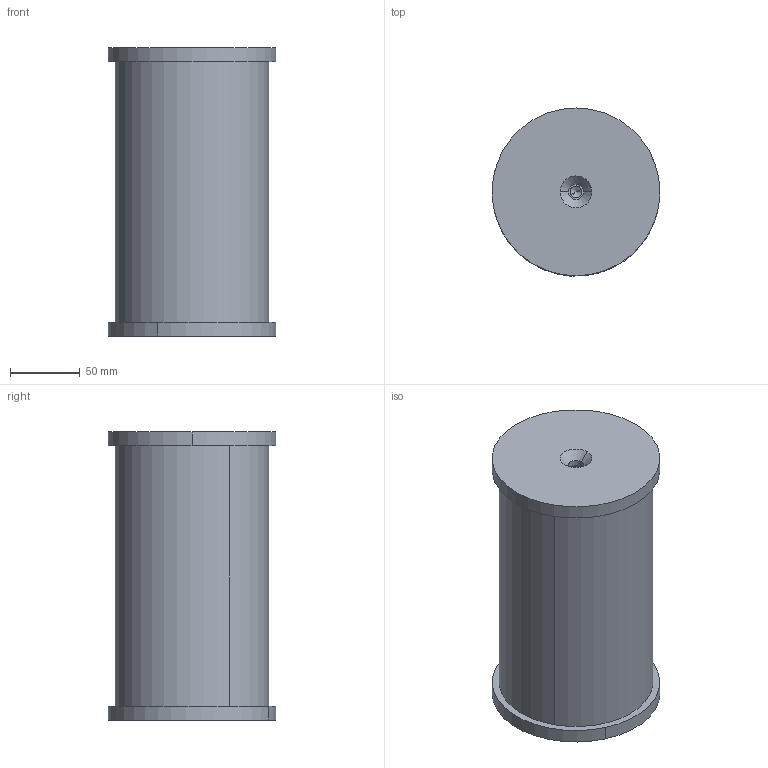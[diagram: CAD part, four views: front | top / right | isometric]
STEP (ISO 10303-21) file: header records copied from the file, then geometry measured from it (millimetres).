
FILE_DESCRIPTION (( 'STEP AP203' ), '1' );
FILE_NAME ('Bolzen Scheibe A M100.STEP', '2018-02-20T07:41:48', ( 'install' ), ( 'Hewlett-Packard Company' ), 'SwSTEP 2.0', 'SolidWorks 2017', '' );
FILE_SCHEMA (( 'CONFIG_CONTROL_DESIGN' ));
Length unit declared in the file: millimetre
Products named in the file (3): Scheibe_M100; Bolzen ScheibeVarA_generisch_M100; Bolzen Scheibe A M100
Assembly tree (3 placements, depth 2):
  Bolzen Scheibe A M100
    Scheibe_M100  x2
    Bolzen ScheibeVarA_generisch_M100
Bounding box: 120 x 120 x 206 mm (x, y, z)
Volume: 1987341.3 mm3; surface area: 137595.7 mm2
Topology: 3 solids, 3 shells, 28 faces, 58 edges, 34 vertices
Faces by surface type: cylinder 14, cone 8, plane 6
Entity records: 853 total; most frequent: DIRECTION 112, CARTESIAN_POINT 88, ORIENTED_EDGE 76, AXIS2_PLACEMENT_3D 48, EDGE_CURVE 38, PERSON_AND_ORGANIZATION 27, VERTEX_POINT 24, EDGE_LOOP 24
